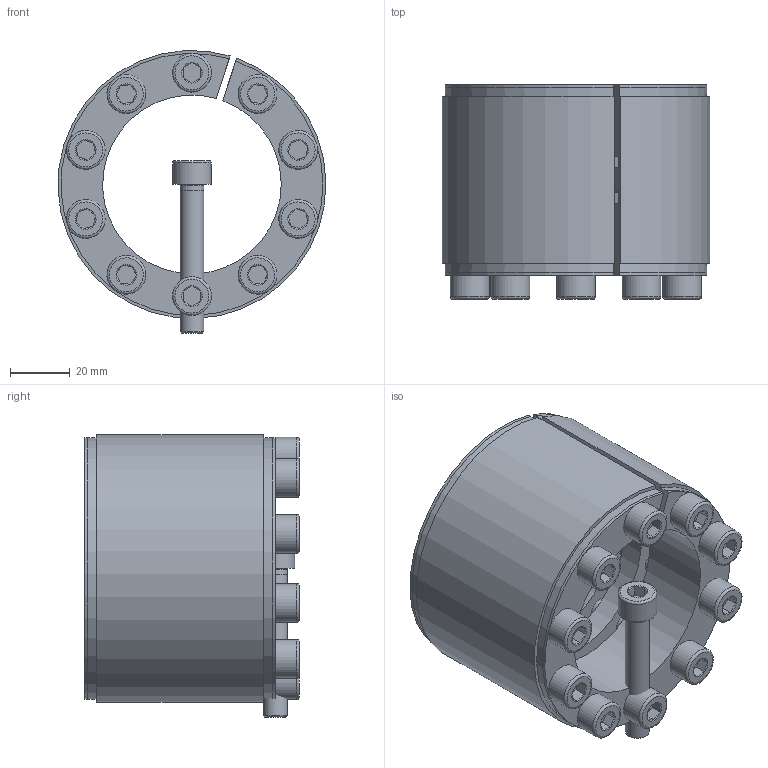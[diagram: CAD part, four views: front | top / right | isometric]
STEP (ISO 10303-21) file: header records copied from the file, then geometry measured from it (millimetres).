
FILE_DESCRIPTION( ( 'Unknown' ), '1' );
FILE_NAME( 'C:/Dokumente und Einstellungen/Sven/Desktop/homepage/cad - homepage/KBS11/KBS 11 - 60 x 90.stp', 'Unknown', ( 'Unknown' ), ( 'Unknown' ), 'XStep 1.0', 'Unknown', ' ' );
FILE_SCHEMA( ( 'automotive_design' ) );
Length unit declared in the file: millimetre
Products named in the file (3): Assem1; KBS 11 - 60 x 90; ISO EN DIN 4762 M8x50
Bounding box: 89.95 x 72 x 94.93 mm (x, y, z)
Volume: 379255.2 mm3; surface area: 144603.1 mm2
Topology: 13 solids, 13 shells, 375 faces, 801 edges, 496 vertices
Faces by surface type: plane 152, cylinder 116, cone 85, torus 22
Full cylindrical faces by diameter (mm): 7 x11, 8 x82, 13 x11
Entity records: 2738 total; most frequent: CARTESIAN_POINT 425, DIRECTION 404, ORIENTED_EDGE 298, AXIS2_PLACEMENT_3D 182, EDGE_LOOP 176, EDGE_CURVE 149, VERTEX_POINT 119, FACE_OUTER_BOUND 111
